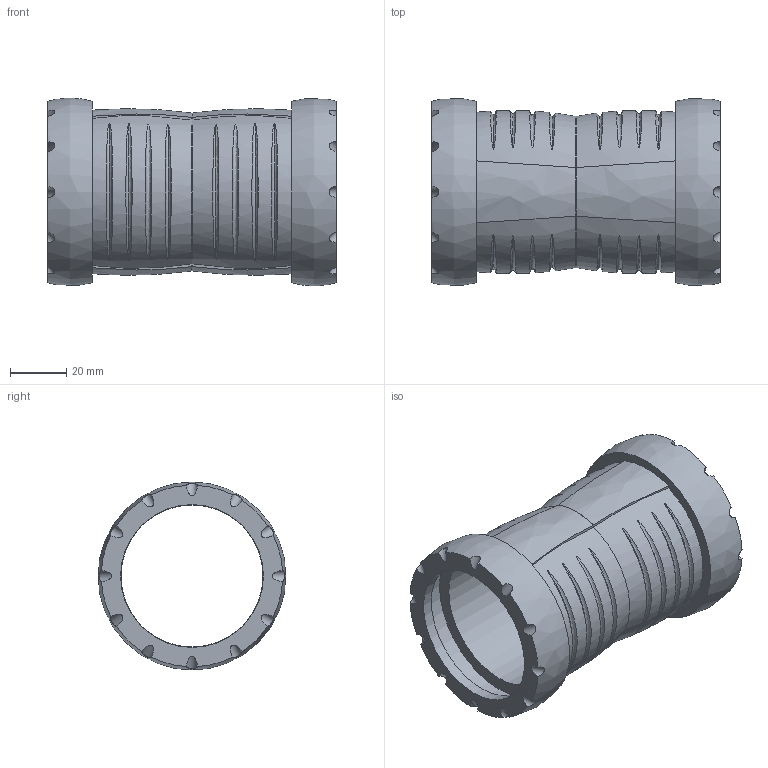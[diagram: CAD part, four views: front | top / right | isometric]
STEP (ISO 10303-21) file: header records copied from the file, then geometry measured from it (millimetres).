
FILE_DESCRIPTION(/* description */ (''),/* implementation_level */ '2;1');
FILE_NAME(/* name */ 'H:\Geberit-Teile\Export\Doppelsteckmuffe\stp\393217.stp',/* time_stamp */ '2017-02-14T08:58:13+01:00',/* author */ ('seihe2'),/* organization */ (''),/* preprocessor_version */ 'ST-DEVELOPER v15.2',/* originating_system */ 'Autodesk Inventor 2014',/* authorisation */ '');
FILE_SCHEMA (('AUTOMOTIVE_DESIGN { 1 0 10303 214 3 1 1 }'));
Length unit declared in the file: millimetre
Products named in the file (1): 393217
Bounding box: 103 x 66.84 x 67.07 mm (x, y, z)
Volume: 71280.1 mm3; surface area: 45177.8 mm2
Topology: 2 solids, 2 shells, 86 faces, 216 edges, 156 vertices
Faces by surface type: bspline 46, cylinder 30, plane 10
Full cylindrical faces by diameter (mm): 50.7 x2, 51 x2, 60.1 x2
Entity records: 7177 total; most frequent: CARTESIAN_POINT 5327, ORIENTED_EDGE 416, DIRECTION 250, EDGE_CURVE 208, VERTEX_POINT 154, AXIS2_PLACEMENT_3D 125, B_SPLINE_CURVE_WITH_KNOTS 122, EDGE_LOOP 118
